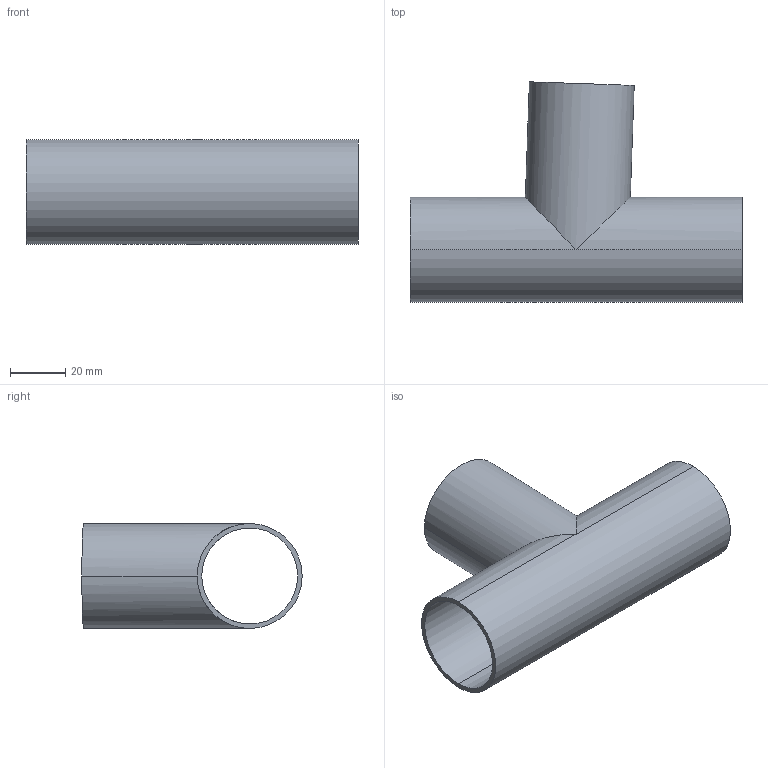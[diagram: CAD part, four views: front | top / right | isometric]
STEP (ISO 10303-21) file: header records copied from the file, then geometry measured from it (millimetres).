
FILE_DESCRIPTION (( 'STEP AP214' ), '1' );
FILE_NAME ('TE7WWW886L1.5-...STEP', '2016-05-23T04:56:03', ( 'eran' ), ( '' ), 'SwSTEP 2.0', 'SolidWorks 2016', '' );
FILE_SCHEMA (( 'AUTOMOTIVE_DESIGN' ));
Length unit declared in the file: millimetre
Products named in the file (1): TE7WWW886L1.5-..
Bounding box: 120.6 x 80.01 x 38.1 mm (x, y, z)
Volume: 29798.5 mm3; surface area: 37355.8 mm2
Topology: 2 solids, 2 shells, 15 faces, 36 edges, 24 vertices
Faces by surface type: cylinder 12, plane 3
Entity records: 733 total; most frequent: CARTESIAN_POINT 344, ORIENTED_EDGE 72, DIRECTION 68, EDGE_CURVE 36, AXIS2_PLACEMENT_3D 28, VERTEX_POINT 24, EDGE_LOOP 20, ADVANCED_FACE 15
